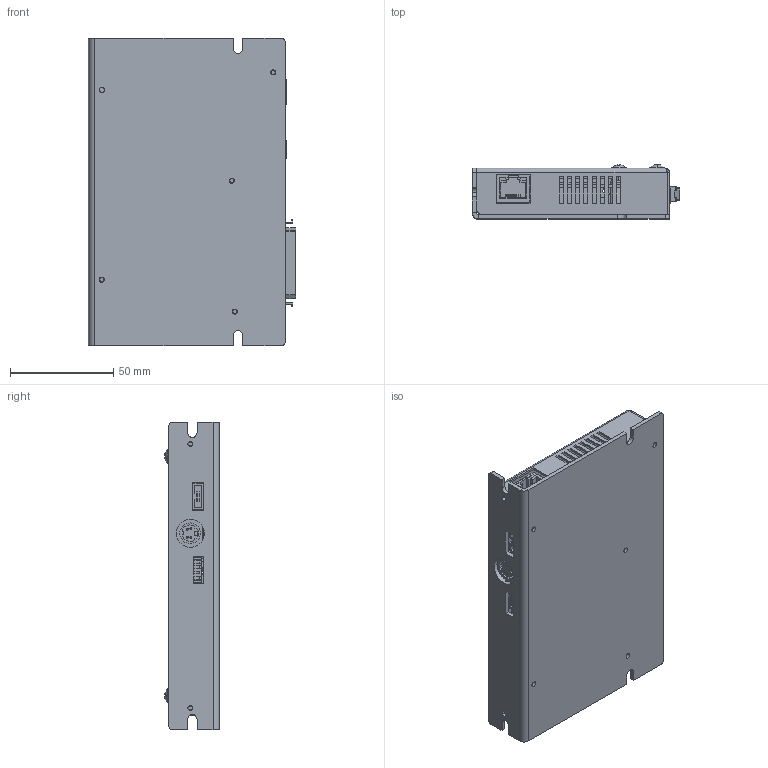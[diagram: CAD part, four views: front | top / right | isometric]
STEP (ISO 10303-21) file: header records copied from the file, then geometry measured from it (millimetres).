
FILE_DESCRIPTION (( 'STEP AP214' ), '1' );
FILE_NAME ('EXC206C.STEP', '2020-12-07T02:27:53', ( '' ), ( '' ), 'SwSTEP 2.0', 'SolidWorks 2017', '' );
FILE_SCHEMA (( 'AUTOMOTIVE_DESIGN' ));
Length unit declared in the file: millimetre
Products named in the file (20): TERMINAL-3P; TRSS3-6_TRSS3-6; EXC206M-C1B; EXC201M-PCB02; User Library-RJ45; D-SUB-44P; NKJ3-6_NKJ3-6; EXC206C; LED-301; Samtec-MUSB-05-F-B-SM-A; M3X16銅柱; MiniDin-40FC; EXC201M-PC001; EXC206M-C2B; M3X7.8銅柱; TERMINAL-2P; 接頭-01; EXC201M-PCB01; SCSI-50P; PC-A03-4(min)
Assembly tree (24 placements, depth 3):
  EXC206C
    EXC206M-C1B
    EXC206M-C2B
    EXC201M-PC001
      EXC201M-PCB01
      TERMINAL-3P
      LED-301
      TERMINAL-2P
      EXC201M-PCB02
      M3X7.8銅柱  x2
      接頭-01
      SCSI-50P
      Samtec-MUSB-05-F-B-SM-A
      D-SUB-44P
      User Library-RJ45
      PC-A03-4(min)
      MiniDin-40FC
    NKJ3-6_NKJ3-6  x3
    TRSS3-6_TRSS3-6  x2
    M3X16銅柱  x2
Bounding box: 100.4 x 26.4 x 149 mm (x, y, z)
Volume: 101199.3 mm3; surface area: 121052.8 mm2
Topology: 32 solids, 32 shells, 1894 faces, 4821 edges, 3148 vertices
Faces by surface type: plane 1276, cylinder 322, bspline 156, cone 112, torus 18, sphere 10
Entity records: 69336 total; most frequent: CARTESIAN_POINT 18166, ORIENTED_EDGE 8902, DIRECTION 7965, EDGE_CURVE 4451, LINE 3391, VECTOR 3391, VERTEX_POINT 2924, AXIS2_PLACEMENT_3D 2287
